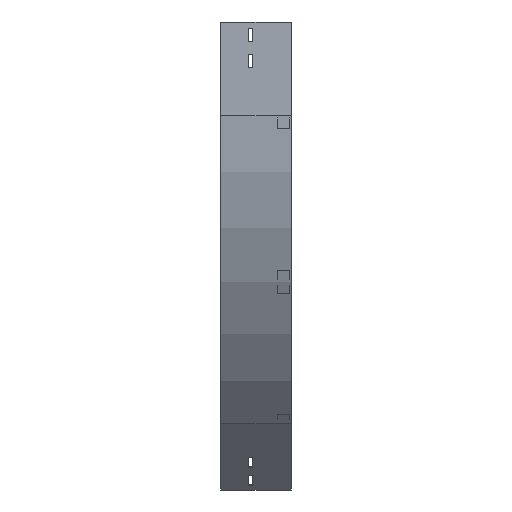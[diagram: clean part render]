
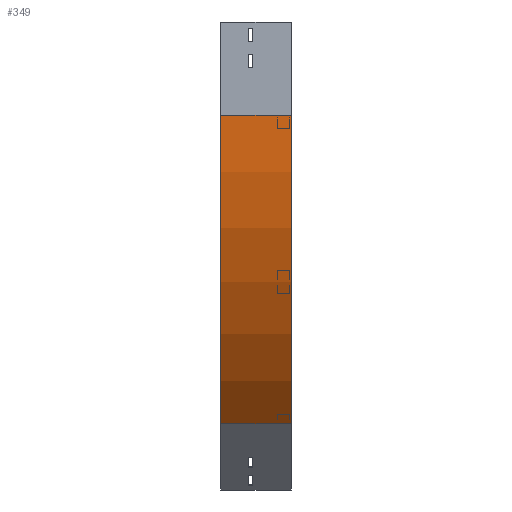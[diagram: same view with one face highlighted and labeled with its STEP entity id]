
A CAD part, left-side view. The second image highlights one B-rep face of the part: STEP entity #349.
In plain terms, the highlighted cylindrical face has radius 700 mm (diameter 1400 mm), a partial arc.
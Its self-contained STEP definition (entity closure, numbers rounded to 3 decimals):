
#5 = FACE_OUTER_BOUND ( 'NONE', #609, .T. ) ;
#18 = VECTOR ( 'NONE', #2991, 1000. ) ;
#99 = EDGE_CURVE ( 'NONE', #1290, #1566, #1313, .T. ) ;
#181 = VERTEX_POINT ( 'NONE', #1755 ) ;
#349 = ADVANCED_FACE ( 'NONE', ( #5 ), #2329, .T. ) ;
#475 = CARTESIAN_POINT ( 'NONE',  ( 700., 0., -150. ) ) ;
#503 = CARTESIAN_POINT ( 'NONE',  ( 0., 112.5, -150. ) ) ;
#609 = EDGE_LOOP ( 'NONE', ( #3690, #3292, #1186, #3775 ) ) ;
#681 = VECTOR ( 'NONE', #791, 1000. ) ;
#791 = DIRECTION ( 'NONE',  ( 0., -1., 0. ) ) ;
#873 = CARTESIAN_POINT ( 'NONE',  ( 700., 0., -150. ) ) ;
#1044 = DIRECTION ( 'NONE',  ( 0., 0., -1. ) ) ;
#1121 = DIRECTION ( 'NONE',  ( 0., -1., 0. ) ) ;
#1186 = ORIENTED_EDGE ( 'NONE', *, *, #3325, .T. ) ;
#1201 = LINE ( 'NONE', #3599, #18 ) ;
#1290 = VERTEX_POINT ( 'NONE', #1404 ) ;
#1313 = CIRCLE ( 'NONE', #2436, 700. ) ;
#1369 = CARTESIAN_POINT ( 'NONE',  ( 205.025, 0., -644.975 ) ) ;
#1404 = CARTESIAN_POINT ( 'NONE',  ( 0., 0., -150. ) ) ;
#1566 = VERTEX_POINT ( 'NONE', #1369 ) ;
#1755 = CARTESIAN_POINT ( 'NONE',  ( 205.025, 112.5, -644.975 ) ) ;
#1802 = EDGE_CURVE ( 'NONE', #2830, #1290, #2568, .T. ) ;
#1901 = DIRECTION ( 'NONE',  ( -1., 0., 0. ) ) ;
#2277 = CARTESIAN_POINT ( 'NONE',  ( 700., 112.5, -150. ) ) ;
#2329 = CYLINDRICAL_SURFACE ( 'NONE', #3075, 700. ) ;
#2436 = AXIS2_PLACEMENT_3D ( 'NONE', #475, #3780, #3219 ) ;
#2568 = LINE ( 'NONE', #3706, #681 ) ;
#2740 = CIRCLE ( 'NONE', #3126, 700. ) ;
#2790 = DIRECTION ( 'NONE',  ( 0., -1., 0. ) ) ;
#2830 = VERTEX_POINT ( 'NONE', #503 ) ;
#2991 = DIRECTION ( 'NONE',  ( 0., -1., 0. ) ) ;
#3075 = AXIS2_PLACEMENT_3D ( 'NONE', #873, #1121, #1044 ) ;
#3126 = AXIS2_PLACEMENT_3D ( 'NONE', #2277, #2790, #1901 ) ;
#3219 = DIRECTION ( 'NONE',  ( -1., 0., 0. ) ) ;
#3292 = ORIENTED_EDGE ( 'NONE', *, *, #1802, .F. ) ;
#3325 = EDGE_CURVE ( 'NONE', #2830, #181, #2740, .T. ) ;
#3563 = EDGE_CURVE ( 'NONE', #181, #1566, #1201, .T. ) ;
#3599 = CARTESIAN_POINT ( 'NONE',  ( 205.025, 0., -644.975 ) ) ;
#3690 = ORIENTED_EDGE ( 'NONE', *, *, #99, .F. ) ;
#3706 = CARTESIAN_POINT ( 'NONE',  ( 0., 0., -150. ) ) ;
#3775 = ORIENTED_EDGE ( 'NONE', *, *, #3563, .T. ) ;
#3780 = DIRECTION ( 'NONE',  ( 0., -1., 0. ) ) ;
